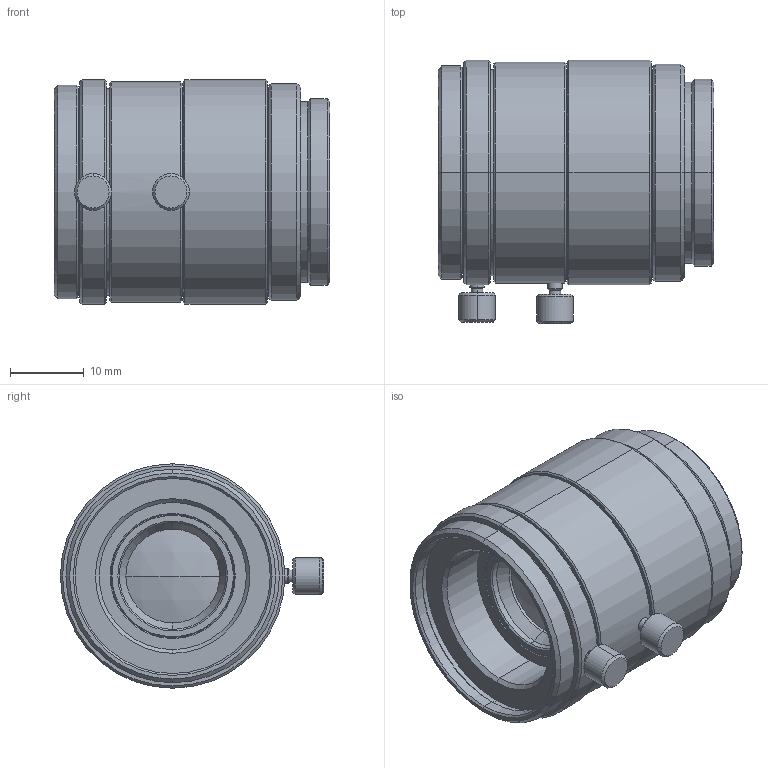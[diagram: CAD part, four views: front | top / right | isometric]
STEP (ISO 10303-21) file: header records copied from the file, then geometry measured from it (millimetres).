
FILE_DESCRIPTION (( 'STEP AP203' ), '1' );
FILE_NAME ('VS-LDA25.STEP', '2016-09-27T00:14:32', ( '' ), ( '' ), 'SwSTEP 2.0', 'SolidWorks 2016', '' );
FILE_SCHEMA (( 'CONFIG_CONTROL_DESIGN' ));
Length unit declared in the file: millimetre
Products named in the file (1): VS-LDA25
Bounding box: 37.48 x 35.75 x 30.5 mm (x, y, z)
Volume: 19643.4 mm3; surface area: 7074 mm2
Topology: 1 solids, 1 shells, 144 faces, 290 edges, 170 vertices
Faces by surface type: cone 70, cylinder 48, plane 22, sphere 4
Entity records: 3875 total; most frequent: DIRECTION 744, CARTESIAN_POINT 669, ORIENTED_EDGE 580, AXIS2_PLACEMENT_3D 313, EDGE_CURVE 290, VERTEX_POINT 170, CIRCLE 168, EDGE_LOOP 166
